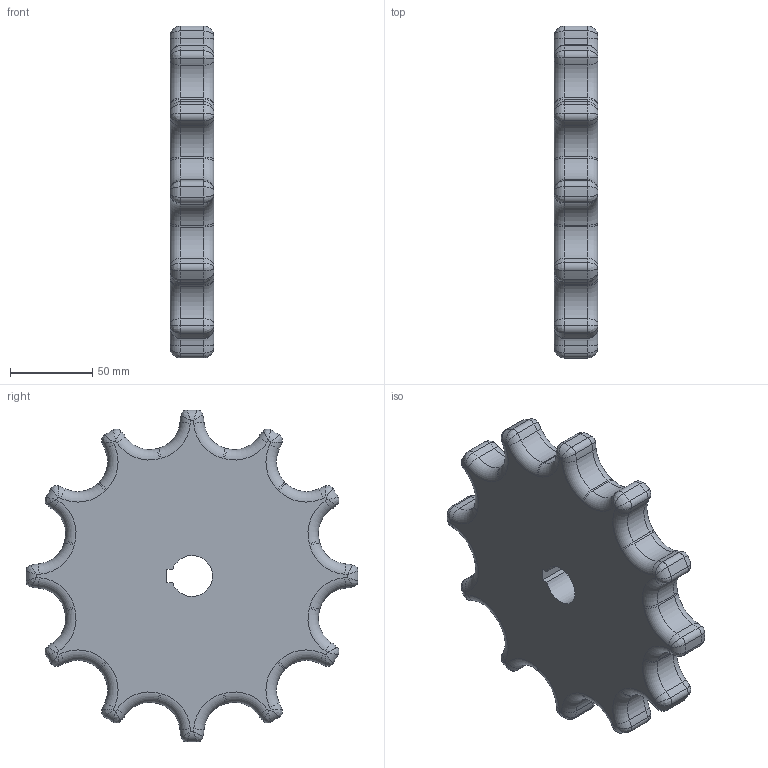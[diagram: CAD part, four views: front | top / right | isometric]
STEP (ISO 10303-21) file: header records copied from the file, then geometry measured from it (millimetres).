
FILE_DESCRIPTION((''),'2;1');
FILE_NAME('S3000_SPROCKET_77X1-1_4_RND','2008-12-12T',('jmumphre'),(''),'PRO/ENGINEER BY PARAMETRIC TECHNOLOGY CORPORATION, 2008150','PRO/ENGINEER BY PARAMETRIC TECHNOLOGY CORPORATION, 2008150','');
FILE_SCHEMA(('CONFIG_CONTROL_DESIGN'));
Length unit declared in the file: inch
Products named in the file (1): S3000_SPROCKET_77X1-1_4_RND
Bounding box: 26.8 x 202.28 x 202.28 mm (x, y, z)
Volume: 636688.9 mm3; surface area: 68737.5 mm2
Topology: 1 solids, 1 shells, 294 faces, 636 edges, 344 vertices
Faces by surface type: torus 120, cylinder 109, bspline 48, plane 17
Entity records: 10942 total; most frequent: CARTESIAN_POINT 4742, DIRECTION 1370, ORIENTED_EDGE 1272, EDGE_CURVE 636, AXIS2_PLACEMENT_3D 608, CIRCLE 362, VERTEX_POINT 344, EDGE_LOOP 296
